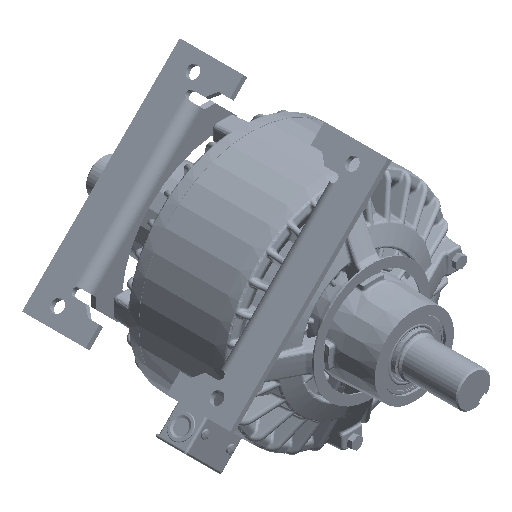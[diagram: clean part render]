
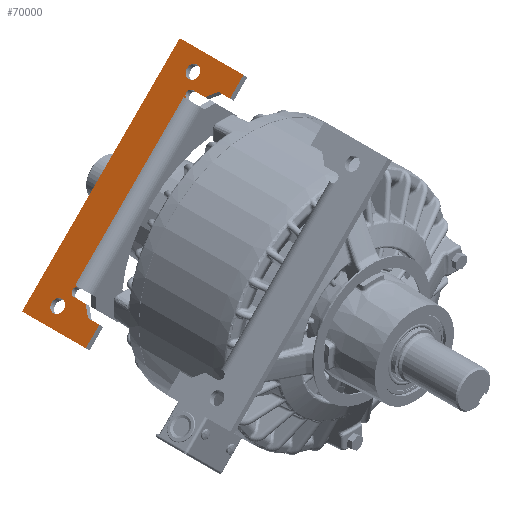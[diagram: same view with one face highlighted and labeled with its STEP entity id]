
A CAD part, isometric view. The second image highlights one B-rep face of the part: STEP entity #70000.
In plain terms, the highlighted planar face has unit normal (-0.707, 0, 0.707).
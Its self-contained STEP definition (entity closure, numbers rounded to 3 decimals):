
#6197=FACE_BOUND('',#14338,.T.);
#6198=FACE_BOUND('',#14339,.T.);
#9817=FACE_OUTER_BOUND('',#14337,.T.);
#14337=EDGE_LOOP('',(#56977,#56978,#56979,#56980,#56981,#56982,#56983,#56984,
#56985,#56986,#56987,#56988,#56989,#56990,#56991,#56992));
#14338=EDGE_LOOP('',(#56993));
#14339=EDGE_LOOP('',(#56994));
#18650=CIRCLE('',#75708,0.281);
#18652=CIRCLE('',#75711,0.18);
#18655=CIRCLE('',#75717,0.281);
#18657=CIRCLE('',#75720,0.18);
#22334=LINE('',#168585,#25348);
#22335=LINE('',#168590,#25349);
#22336=LINE('',#168592,#25350);
#22337=LINE('',#168594,#25351);
#22338=LINE('',#168596,#25352);
#22339=LINE('',#168598,#25353);
#22340=LINE('',#168599,#25354);
#22341=LINE('',#168601,#25355);
#22342=LINE('',#168602,#25356);
#22343=LINE('',#168604,#25357);
#22344=LINE('',#168606,#25358);
#22345=LINE('',#168608,#25359);
#22346=LINE('',#168610,#25360);
#22347=LINE('',#168611,#25361);
#25348=VECTOR('',#88324,39.37);
#25349=VECTOR('',#88329,39.37);
#25350=VECTOR('',#88330,39.37);
#25351=VECTOR('',#88331,39.37);
#25352=VECTOR('',#88332,39.37);
#25353=VECTOR('',#88333,39.37);
#25354=VECTOR('',#88334,39.37);
#25355=VECTOR('',#88335,39.37);
#25356=VECTOR('',#88336,39.37);
#25357=VECTOR('',#88337,39.37);
#25358=VECTOR('',#88338,39.37);
#25359=VECTOR('',#88339,39.37);
#25360=VECTOR('',#88340,39.37);
#25361=VECTOR('',#88341,39.37);
#30568=VERTEX_POINT('',#168542);
#30570=VERTEX_POINT('',#168548);
#30571=VERTEX_POINT('',#168549);
#30577=VERTEX_POINT('',#168567);
#30579=VERTEX_POINT('',#168573);
#30580=VERTEX_POINT('',#168574);
#30584=VERTEX_POINT('',#168584);
#30585=VERTEX_POINT('',#168588);
#30586=VERTEX_POINT('',#168589);
#30587=VERTEX_POINT('',#168591);
#30588=VERTEX_POINT('',#168593);
#30589=VERTEX_POINT('',#168595);
#30590=VERTEX_POINT('',#168597);
#30591=VERTEX_POINT('',#168600);
#30592=VERTEX_POINT('',#168603);
#30593=VERTEX_POINT('',#168605);
#30594=VERTEX_POINT('',#168607);
#30595=VERTEX_POINT('',#168609);
#39687=EDGE_CURVE('',#30568,#30568,#18650,.T.);
#39690=EDGE_CURVE('',#30570,#30571,#18652,.T.);
#39699=EDGE_CURVE('',#30577,#30577,#18655,.T.);
#39702=EDGE_CURVE('',#30579,#30580,#18657,.T.);
#39707=EDGE_CURVE('',#30584,#30580,#22334,.T.);
#39709=EDGE_CURVE('',#30585,#30586,#22335,.T.);
#39710=EDGE_CURVE('',#30585,#30587,#22336,.T.);
#39711=EDGE_CURVE('',#30587,#30588,#22337,.T.);
#39712=EDGE_CURVE('',#30588,#30589,#22338,.T.);
#39713=EDGE_CURVE('',#30589,#30590,#22339,.T.);
#39714=EDGE_CURVE('',#30590,#30570,#22340,.T.);
#39715=EDGE_CURVE('',#30591,#30571,#22341,.T.);
#39716=EDGE_CURVE('',#30591,#30584,#22342,.T.);
#39717=EDGE_CURVE('',#30592,#30579,#22343,.T.);
#39718=EDGE_CURVE('',#30593,#30592,#22344,.T.);
#39719=EDGE_CURVE('',#30594,#30593,#22345,.T.);
#39720=EDGE_CURVE('',#30595,#30594,#22346,.T.);
#39721=EDGE_CURVE('',#30586,#30595,#22347,.T.);
#56977=ORIENTED_EDGE('',*,*,#39709,.F.);
#56978=ORIENTED_EDGE('',*,*,#39710,.T.);
#56979=ORIENTED_EDGE('',*,*,#39711,.T.);
#56980=ORIENTED_EDGE('',*,*,#39712,.T.);
#56981=ORIENTED_EDGE('',*,*,#39713,.T.);
#56982=ORIENTED_EDGE('',*,*,#39714,.T.);
#56983=ORIENTED_EDGE('',*,*,#39690,.T.);
#56984=ORIENTED_EDGE('',*,*,#39715,.F.);
#56985=ORIENTED_EDGE('',*,*,#39716,.T.);
#56986=ORIENTED_EDGE('',*,*,#39707,.T.);
#56987=ORIENTED_EDGE('',*,*,#39702,.F.);
#56988=ORIENTED_EDGE('',*,*,#39717,.F.);
#56989=ORIENTED_EDGE('',*,*,#39718,.F.);
#56990=ORIENTED_EDGE('',*,*,#39719,.F.);
#56991=ORIENTED_EDGE('',*,*,#39720,.F.);
#56992=ORIENTED_EDGE('',*,*,#39721,.F.);
#56993=ORIENTED_EDGE('',*,*,#39687,.F.);
#56994=ORIENTED_EDGE('',*,*,#39699,.T.);
#67048=PLANE('',#75724);
#70000=ADVANCED_FACE('',(#9817,#6197,#6198),#67048,.T.);
#75708=AXIS2_PLACEMENT_3D('',#168543,#88283,#88284);
#75711=AXIS2_PLACEMENT_3D('',#168550,#88290,#88291);
#75717=AXIS2_PLACEMENT_3D('',#168568,#88308,#88309);
#75720=AXIS2_PLACEMENT_3D('',#168575,#88315,#88316);
#75724=AXIS2_PLACEMENT_3D('',#168587,#88327,#88328);
#88283=DIRECTION('center_axis',(-0.707,0.,
0.707));
#88284=DIRECTION('ref_axis',(0.,1.,0.));
#88290=DIRECTION('center_axis',(0.707,0.,
-0.707));
#88291=DIRECTION('ref_axis',(0.,-1.,0.));
#88308=DIRECTION('center_axis',(0.707,0.,
-0.707));
#88309=DIRECTION('ref_axis',(0.,1.,0.));
#88315=DIRECTION('center_axis',(-0.707,0.,
0.707));
#88316=DIRECTION('ref_axis',(0.,-1.,0.));
#88324=DIRECTION('',(0.,-1.,0.));
#88327=DIRECTION('center_axis',(-0.707,0.,
0.707));
#88328=DIRECTION('ref_axis',(0.,-1.,0.));
#88329=DIRECTION('',(0.707,0.,0.707));
#88330=DIRECTION('',(0.,-1.,0.));
#88331=DIRECTION('',(0.707,0.,0.707));
#88332=DIRECTION('',(0.,1.,0.));
#88333=DIRECTION('',(0.5,0.707,0.5));
#88334=DIRECTION('',(0.,1.,0.));
#88335=DIRECTION('',(0.,-1.,0.));
#88336=DIRECTION('',(0.707,0.,0.707));
#88337=DIRECTION('',(0.,1.,0.));
#88338=DIRECTION('',(-0.5,0.707,-0.5));
#88339=DIRECTION('',(0.,1.,0.));
#88340=DIRECTION('',(-0.707,0.,-0.707));
#88341=DIRECTION('',(0.,-1.,0.));
#168542=CARTESIAN_POINT('',(-7.071,5.219,0.706));
#168543=CARTESIAN_POINT('Origin',(-7.071,5.5,0.706));
#168548=CARTESIAN_POINT('',(-6.696,5.13,1.081));
#168549=CARTESIAN_POINT('',(-6.442,5.13,1.335));
#168550=CARTESIAN_POINT('Origin',(-6.569,5.13,1.208));
#168567=CARTESIAN_POINT('',(-0.707,5.219,7.07));
#168568=CARTESIAN_POINT('Origin',(-0.707,5.5,7.07));
#168573=CARTESIAN_POINT('',(-1.082,5.13,6.695));
#168574=CARTESIAN_POINT('',(-1.336,5.13,6.44));
#168575=CARTESIAN_POINT('Origin',(-1.209,5.13,6.568));
#168584=CARTESIAN_POINT('',(-1.336,5.31,6.44));
#168585=CARTESIAN_POINT('',(-1.336,5.13,6.44));
#168587=CARTESIAN_POINT('Origin',(-1.209,5.13,6.568));
#168588=CARTESIAN_POINT('',(-7.601,6.65,0.175));
#168589=CARTESIAN_POINT('',(-0.177,6.65,7.6));
#168590=CARTESIAN_POINT('',(-3.889,6.65,3.888));
#168591=CARTESIAN_POINT('',(-7.601,3.65,0.175));
#168592=CARTESIAN_POINT('',(-7.601,6.65,0.175));
#168593=CARTESIAN_POINT('',(-6.961,3.65,0.815));
#168594=CARTESIAN_POINT('',(-7.601,3.65,0.175));
#168595=CARTESIAN_POINT('',(-6.961,4.185,0.815));
#168596=CARTESIAN_POINT('',(-6.961,3.65,0.815));
#168597=CARTESIAN_POINT('',(-6.696,4.56,1.081));
#168598=CARTESIAN_POINT('',(-6.961,4.185,0.815));
#168599=CARTESIAN_POINT('',(-6.696,4.56,1.081));
#168600=CARTESIAN_POINT('',(-6.442,5.31,1.335));
#168601=CARTESIAN_POINT('',(-6.442,5.13,1.335));
#168602=CARTESIAN_POINT('',(-3.889,5.31,3.888));
#168603=CARTESIAN_POINT('',(-1.082,4.56,6.695));
#168604=CARTESIAN_POINT('',(-1.082,4.56,6.695));
#168605=CARTESIAN_POINT('',(-0.817,4.185,6.96));
#168606=CARTESIAN_POINT('',(-0.817,4.185,6.96));
#168607=CARTESIAN_POINT('',(-0.817,3.65,6.96));
#168608=CARTESIAN_POINT('',(-0.817,3.65,6.96));
#168609=CARTESIAN_POINT('',(-0.177,3.65,7.6));
#168610=CARTESIAN_POINT('',(-0.177,3.65,7.6));
#168611=CARTESIAN_POINT('',(-0.177,6.65,7.6));
